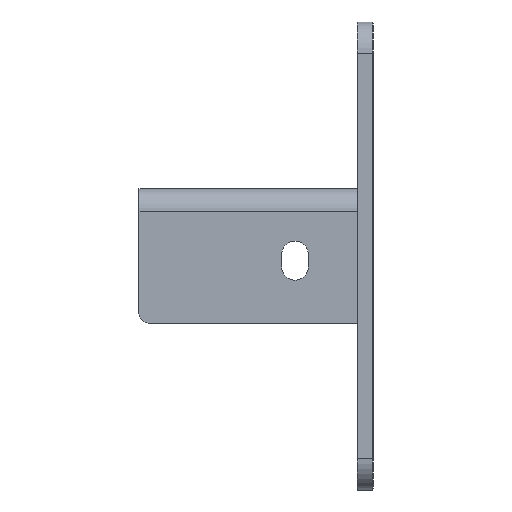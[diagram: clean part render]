
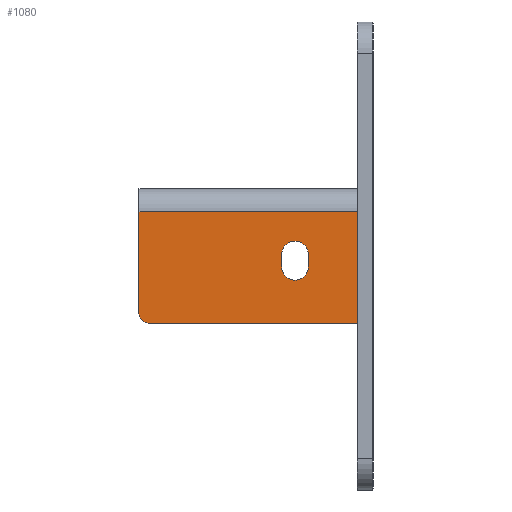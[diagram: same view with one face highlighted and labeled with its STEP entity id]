
A CAD part, left-side view. The second image highlights one B-rep face of the part: STEP entity #1080.
In plain terms, the highlighted planar face has unit normal (-1, 0, 0).
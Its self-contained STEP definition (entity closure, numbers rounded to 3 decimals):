
#27 = VERTEX_POINT ( 'NONE', #1359 ) ;
#33 = ORIENTED_EDGE ( 'NONE', *, *, #2188, .F. ) ;
#50 = DIRECTION ( 'NONE',  ( -1., 0., 0. ) ) ;
#126 = VERTEX_POINT ( 'NONE', #1224 ) ;
#138 = LINE ( 'NONE', #1399, #2026 ) ;
#142 = CARTESIAN_POINT ( 'NONE',  ( -23.5, -35., -7.3 ) ) ;
#155 = CARTESIAN_POINT ( 'NONE',  ( -23.5, -15., -16.75 ) ) ;
#169 = VECTOR ( 'NONE', #1835, 1000. ) ;
#186 = CARTESIAN_POINT ( 'NONE',  ( -23.5, -10.75, -25. ) ) ;
#264 = DIRECTION ( 'NONE',  ( 0., 0., 1. ) ) ;
#284 = VERTEX_POINT ( 'NONE', #186 ) ;
#294 = VERTEX_POINT ( 'NONE', #142 ) ;
#309 = LINE ( 'NONE', #2315, #1506 ) ;
#343 = EDGE_CURVE ( 'NONE', #1564, #1216, #1321, .T. ) ;
#360 = VECTOR ( 'NONE', #1729, 1000. ) ;
#368 = DIRECTION ( 'NONE',  ( -1., 0., 0. ) ) ;
#369 = AXIS2_PLACEMENT_3D ( 'NONE', #461, #2352, #1192 ) ;
#394 = ORIENTED_EDGE ( 'NONE', *, *, #578, .F. ) ;
#395 = VECTOR ( 'NONE', #1271, 1000. ) ;
#401 = ORIENTED_EDGE ( 'NONE', *, *, #2146, .F. ) ;
#411 = CARTESIAN_POINT ( 'NONE',  ( -23.5, 35., 0. ) ) ;
#454 = LINE ( 'NONE', #1002, #360 ) ;
#461 = CARTESIAN_POINT ( 'NONE',  ( -23.5, -15., -25. ) ) ;
#470 = DIRECTION ( 'NONE',  ( 0., -1., 0. ) ) ;
#491 = CARTESIAN_POINT ( 'NONE',  ( -23.5, -38., -13.99 ) ) ;
#501 = VERTEX_POINT ( 'NONE', #1543 ) ;
#526 = LINE ( 'NONE', #2175, #395 ) ;
#535 = DIRECTION ( 'NONE',  ( 0., 0., -1. ) ) ;
#536 = LINE ( 'NONE', #893, #169 ) ;
#578 = EDGE_CURVE ( 'NONE', #27, #2280, #1615, .T. ) ;
#587 = AXIS2_PLACEMENT_3D ( 'NONE', #2021, #368, #535 ) ;
#602 = CARTESIAN_POINT ( 'NONE',  ( -23.5, -15., -21. ) ) ;
#652 = PLANE ( 'NONE',  #1426 ) ;
#659 = EDGE_CURVE ( 'NONE', #1564, #501, #454, .T. ) ;
#719 = CARTESIAN_POINT ( 'NONE',  ( -23.5, -38., -29.01 ) ) ;
#728 = EDGE_CURVE ( 'NONE', #126, #1123, #1488, .T. ) ;
#740 = CARTESIAN_POINT ( 'NONE',  ( -23.5, -35., 0. ) ) ;
#846 = EDGE_LOOP ( 'NONE', ( #1555, #1385, #401, #1684, #394 ) ) ;
#893 = CARTESIAN_POINT ( 'NONE',  ( -23.5, -19.25, -25. ) ) ;
#922 = EDGE_CURVE ( 'Edge32', #2298, #126, #981, .T. ) ;
#932 = CARTESIAN_POINT ( 'NONE',  ( -23.5, -19.25, -25. ) ) ;
#981 = LINE ( 'NONE', #411, #2017 ) ;
#986 = ORIENTED_EDGE ( 'NONE', *, *, #2076, .T. ) ;
#1002 = CARTESIAN_POINT ( 'NONE',  ( -23.5, -38., -13.99 ) ) ;
#1024 = DIRECTION ( 'NONE',  ( 0., 0., 1. ) ) ;
#1074 = DIRECTION ( 'NONE',  ( -1., 0., 0. ) ) ;
#1080 = ADVANCED_FACE ( 'Face3', ( #1576, #2296 ), #652, .F. ) ;
#1081 = LINE ( 'NONE', #740, #2096 ) ;
#1118 = ORIENTED_EDGE ( 'NONE', *, *, #343, .F. ) ;
#1123 = VERTEX_POINT ( 'NONE', #2242 ) ;
#1150 = DIRECTION ( 'NONE',  ( 0., 0., -1. ) ) ;
#1164 = EDGE_LOOP ( 'NONE', ( #1280, #1823, #986, #1976, #2039, #1118, #1463, #1515, #33 ) ) ;
#1192 = DIRECTION ( 'NONE',  ( 0., 0., 1. ) ) ;
#1214 = DIRECTION ( 'NONE',  ( 1., 0., 0. ) ) ;
#1216 = VERTEX_POINT ( 'NONE', #2322 ) ;
#1224 = CARTESIAN_POINT ( 'NONE',  ( -23.5, 35., -40. ) ) ;
#1258 = CARTESIAN_POINT ( 'NONE',  ( -23.5, -10.75, -21. ) ) ;
#1264 = VERTEX_POINT ( 'NONE', #1258 ) ;
#1270 = DIRECTION ( 'NONE',  ( 0., 0., 1. ) ) ;
#1271 = DIRECTION ( 'NONE',  ( 0., -1., 0. ) ) ;
#1279 = LINE ( 'NONE', #2209, #1312 ) ;
#1280 = ORIENTED_EDGE ( 'NONE', *, *, #922, .T. ) ;
#1312 = VECTOR ( 'NONE', #1270, 1000. ) ;
#1321 = LINE ( 'NONE', #1337, #1616 ) ;
#1337 = CARTESIAN_POINT ( 'NONE',  ( -23.5, -38., -29.01 ) ) ;
#1341 = EDGE_CURVE ( 'Edge17', #2118, #1421, #1081, .T. ) ;
#1359 = CARTESIAN_POINT ( 'NONE',  ( -23.5, -19.25, -21. ) ) ;
#1385 = ORIENTED_EDGE ( 'NONE', *, *, #2022, .F. ) ;
#1399 = CARTESIAN_POINT ( 'NONE',  ( -23.5, -35., -7.3 ) ) ;
#1421 = VERTEX_POINT ( 'NONE', #2231 ) ;
#1426 = AXIS2_PLACEMENT_3D ( 'NONE', #1941, #1214, #2119 ) ;
#1428 = AXIS2_PLACEMENT_3D ( 'NONE', #602, #50, #264 ) ;
#1435 = CIRCLE ( 'NONE', #369, 4.25 ) ;
#1448 = CARTESIAN_POINT ( 'NONE',  ( -23.5, -15., -21. ) ) ;
#1463 = ORIENTED_EDGE ( 'NONE', *, *, #659, .T. ) ;
#1464 = AXIS2_PLACEMENT_3D ( 'NONE', #1448, #1074, #1024 ) ;
#1484 = DIRECTION ( 'NONE',  ( 0., 0., 1. ) ) ;
#1488 = CIRCLE ( 'NONE', #587, 3. ) ;
#1495 = CARTESIAN_POINT ( 'NONE',  ( -23.5, 35., -7.3 ) ) ;
#1506 = VECTOR ( 'NONE', #2332, 1000. ) ;
#1515 = ORIENTED_EDGE ( 'NONE', *, *, #2343, .T. ) ;
#1543 = CARTESIAN_POINT ( 'NONE',  ( -23.5, -35., -13.99 ) ) ;
#1555 = ORIENTED_EDGE ( 'NONE', *, *, #1724, .F. ) ;
#1564 = VERTEX_POINT ( 'NONE', #491 ) ;
#1576 = FACE_BOUND ( 'NONE', #846, .T. ) ;
#1615 = CIRCLE ( 'NONE', #1428, 4.25 ) ;
#1616 = VECTOR ( 'NONE', #2045, 1000. ) ;
#1684 = ORIENTED_EDGE ( 'NONE', *, *, #1958, .F. ) ;
#1724 = EDGE_CURVE ( 'NONE', #2292, #27, #536, .T. ) ;
#1727 = EDGE_CURVE ( 'NONE', #1216, #1421, #2014, .T. ) ;
#1729 = DIRECTION ( 'NONE',  ( 0., 1., 0. ) ) ;
#1823 = ORIENTED_EDGE ( 'NONE', *, *, #728, .T. ) ;
#1835 = DIRECTION ( 'NONE',  ( 0., 0., 1. ) ) ;
#1941 = CARTESIAN_POINT ( 'NONE',  ( -23.5, 0., 0. ) ) ;
#1958 = EDGE_CURVE ( 'NONE', #2280, #1264, #2143, .T. ) ;
#1976 = ORIENTED_EDGE ( 'NONE', *, *, #1341, .T. ) ;
#1984 = DIRECTION ( 'NONE',  ( 0., 1., 0. ) ) ;
#2014 = LINE ( 'NONE', #719, #2163 ) ;
#2017 = VECTOR ( 'NONE', #1150, 1000. ) ;
#2021 = CARTESIAN_POINT ( 'NONE',  ( -23.5, 32., -40. ) ) ;
#2022 = EDGE_CURVE ( 'NONE', #284, #2292, #1435, .T. ) ;
#2026 = VECTOR ( 'NONE', #470, 1000. ) ;
#2039 = ORIENTED_EDGE ( 'NONE', *, *, #1727, .F. ) ;
#2045 = DIRECTION ( 'NONE',  ( 0., 0., -1. ) ) ;
#2076 = EDGE_CURVE ( 'Edge9', #1123, #2118, #526, .T. ) ;
#2096 = VECTOR ( 'NONE', #1484, 1000. ) ;
#2118 = VERTEX_POINT ( 'NONE', #2304 ) ;
#2119 = DIRECTION ( 'NONE',  ( 0., 0., -1. ) ) ;
#2143 = CIRCLE ( 'NONE', #1464, 4.25 ) ;
#2146 = EDGE_CURVE ( 'NONE', #1264, #284, #309, .T. ) ;
#2163 = VECTOR ( 'NONE', #1984, 1000. ) ;
#2175 = CARTESIAN_POINT ( 'NONE',  ( -23.5, 0., -43. ) ) ;
#2188 = EDGE_CURVE ( 'Edge20', #2298, #294, #138, .T. ) ;
#2209 = CARTESIAN_POINT ( 'NONE',  ( -23.5, -35., 0. ) ) ;
#2231 = CARTESIAN_POINT ( 'NONE',  ( -23.5, -35., -29.01 ) ) ;
#2242 = CARTESIAN_POINT ( 'NONE',  ( -23.5, 32., -43. ) ) ;
#2280 = VERTEX_POINT ( 'NONE', #155 ) ;
#2292 = VERTEX_POINT ( 'NONE', #932 ) ;
#2296 = FACE_OUTER_BOUND ( 'NONE', #1164, .T. ) ;
#2298 = VERTEX_POINT ( 'NONE', #1495 ) ;
#2304 = CARTESIAN_POINT ( 'NONE',  ( -23.5, -35., -43. ) ) ;
#2315 = CARTESIAN_POINT ( 'NONE',  ( -23.5, -10.75, -25. ) ) ;
#2322 = CARTESIAN_POINT ( 'NONE',  ( -23.5, -38., -29.01 ) ) ;
#2332 = DIRECTION ( 'NONE',  ( 0., 0., -1. ) ) ;
#2343 = EDGE_CURVE ( 'NONE', #501, #294, #1279, .T. ) ;
#2352 = DIRECTION ( 'NONE',  ( -1., 0., 0. ) ) ;
